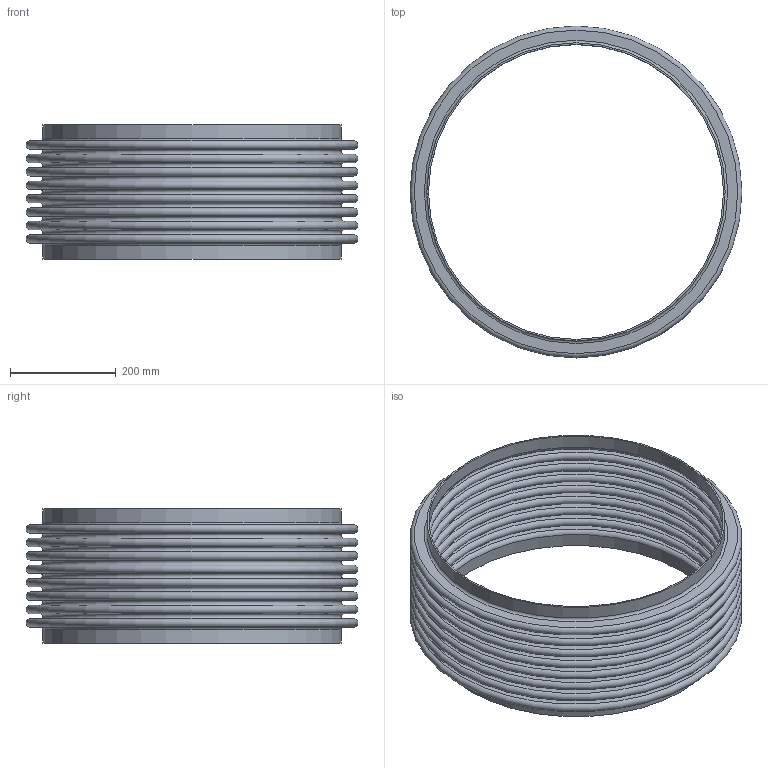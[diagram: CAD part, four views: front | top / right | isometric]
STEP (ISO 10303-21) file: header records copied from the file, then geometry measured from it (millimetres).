
FILE_DESCRIPTION(/* description */ ('STOCK BELLOWS: U.S-22-8-300S, 22.000 I.D., 24.750 O.D., 2 PLY, 16 GA (0.060 THICK), 8 CONS., 1.000 PITCH, 1.000 TANGENT. '),/* implementation_level */ '2;1');
FILE_NAME(/* name */ 'STOCK BELLOW - US-22-8-300S.stp',/* time_stamp */ '2026-07-21T13:32:00-05:00',/* author */ ('KennethB'),/* organization */ (''),/* preprocessor_version */ 'ST-DEVELOPER v20.1',/* originating_system */ 'Autodesk Inventor 2026',/* authorisation */ '');
FILE_SCHEMA (('AUTOMOTIVE_DESIGN { 1 0 10303 214 3 1 1 }'));
Length unit declared in the file: inch
Products named in the file (1): STOCK BELLOW - US-22-8-300S
Bounding box: 628.65 x 628.65 x 254 mm (x, y, z)
Volume: 3832377.6 mm3; surface area: 2546963.6 mm2
Topology: 3 solids, 3 shells, 76 faces, 114 edges, 77 vertices
Faces by surface type: plane 38, torus 34, cylinder 4
Full cylindrical faces by diameter (mm): 558.8 x2, 564.896 x2
Entity records: 1814 total; most frequent: DIRECTION 378, CARTESIAN_POINT 268, ORIENTED_EDGE 228, AXIS2_PLACEMENT_3D 187, EDGE_LOOP 114, EDGE_CURVE 114, CIRCLE 110, FACE_OUTER_BOUND 76
